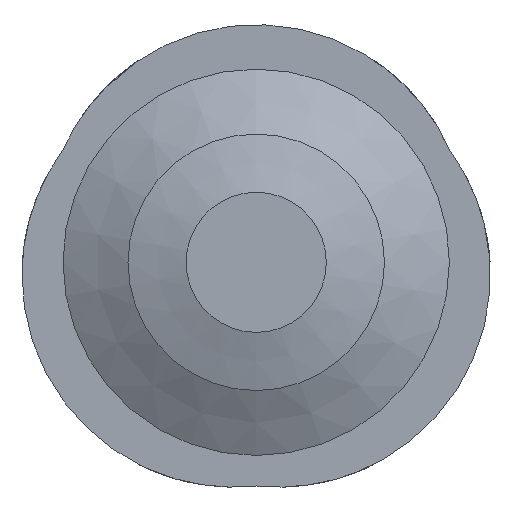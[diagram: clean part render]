
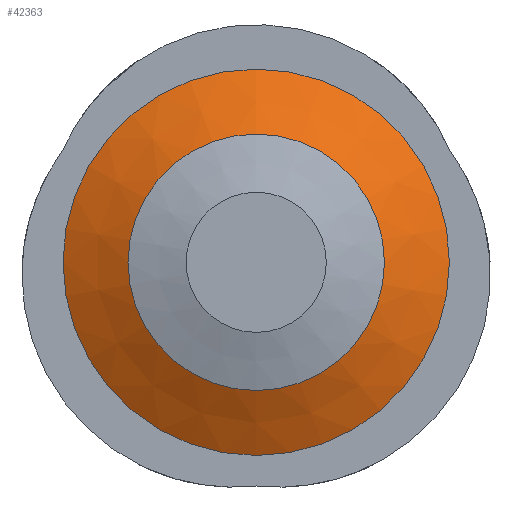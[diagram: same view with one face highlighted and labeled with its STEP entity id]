
A CAD part, front view. The second image highlights one B-rep face of the part: STEP entity #42363.
In plain terms, the highlighted conical face has half-angle 62.241 degrees and reference radius 375 mm.
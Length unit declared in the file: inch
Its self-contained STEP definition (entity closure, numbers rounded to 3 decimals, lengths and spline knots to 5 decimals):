
#649 = DIRECTION ( 'NONE',  ( 0., 0., 1. ) ) ;
#6117 = CARTESIAN_POINT ( 'NONE',  ( 0., -14.76378, 0. ) ) ;
#27991 = AXIS2_PLACEMENT_3D ( 'NONE', #6117, #171682, #167073 ) ;
#31307 = AXIS2_PLACEMENT_3D ( 'NONE', #71330, #165430, #84845 ) ;
#36174 = FACE_OUTER_BOUND ( 'NONE', #79181, .T. ) ;
#36483 = VERTEX_POINT ( 'NONE', #152095 ) ;
#42363 = ADVANCED_FACE ( 'NONE', ( #36174, #139124 ), #134926, .T. ) ;
#47385 = EDGE_LOOP ( 'NONE', ( #61334 ) ) ;
#55412 = EDGE_CURVE ( 'NONE', #36483, #36483, #135519, .T. ) ;
#59782 = AXIS2_PLACEMENT_3D ( 'NONE', #161678, #81034, #649 ) ;
#61334 = ORIENTED_EDGE ( 'NONE', *, *, #55412, .T. ) ;
#71330 = CARTESIAN_POINT ( 'NONE',  ( 0., -14.76378, 0. ) ) ;
#79181 = EDGE_LOOP ( 'NONE', ( #153220 ) ) ;
#81034 = DIRECTION ( 'NONE',  ( 0., 1., 0. ) ) ;
#84845 = DIRECTION ( 'NONE',  ( 0., 0., 1. ) ) ;
#103330 = VERTEX_POINT ( 'NONE', #159623 ) ;
#110676 = EDGE_CURVE ( 'NONE', #103330, #103330, #143567, .T. ) ;
#134926 = CONICAL_SURFACE ( 'NONE', #27991, 14.76378, 1.086 ) ;
#135519 = CIRCLE ( 'NONE', #31307, 14.76378 ) ;
#139124 = FACE_BOUND ( 'NONE', #47385, .T. ) ;
#143567 = CIRCLE ( 'NONE', #59782, 22.24409 ) ;
#152095 = CARTESIAN_POINT ( 'NONE',  ( 0., -14.76378, 14.76378 ) ) ;
#153220 = ORIENTED_EDGE ( 'NONE', *, *, #110676, .F. ) ;
#159623 = CARTESIAN_POINT ( 'NONE',  ( 0., -10.82677, 22.24409 ) ) ;
#161678 = CARTESIAN_POINT ( 'NONE',  ( 0., -10.82677, 0. ) ) ;
#165430 = DIRECTION ( 'NONE',  ( 0., 1., 0. ) ) ;
#167073 = DIRECTION ( 'NONE',  ( 0., 0., 1. ) ) ;
#171682 = DIRECTION ( 'NONE',  ( 0., 1., 0. ) ) ;
